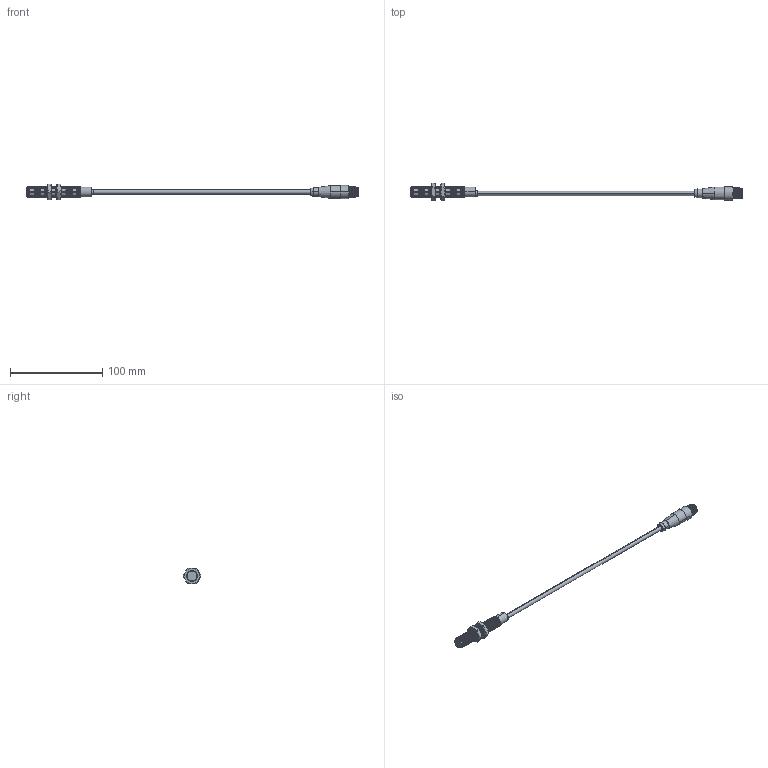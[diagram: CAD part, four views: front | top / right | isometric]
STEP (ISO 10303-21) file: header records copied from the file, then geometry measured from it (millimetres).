
FILE_DESCRIPTION (( 'STEP AP203' ), '1' );
FILE_NAME ('90-29417-053.STEP', '2015-11-07T16:37:11', ( 'Sam' ), ( 'Spade' ), 'SwSTEP 2.0', 'SolidWorks 2002296', '' );
FILE_SCHEMA (( 'CONFIG_CONTROL_DESIGN' ));
Length unit declared in the file: inch
Products named in the file (12): 90-29417-053; Imported; Imported3; Imported2; Imported1; Imported7; Imported6; Imported5; Imported4; Imported10; Imported9; Imported8
Assembly tree (11 placements, depth 2):
  90-29417-053
    Imported4
    Imported7
    Imported3
    Imported9
    Imported2
    Imported
    Imported1
    Imported8
    Imported10
    Imported6
    Imported5
Bounding box: 359.71 x 19.47 x 16.87 mm (x, y, z)
Volume: 18501.7 mm3; surface area: 13511.2 mm2
Topology: 11 solids, 11 shells, 556 faces, 1243 edges, 715 vertices
Faces by surface type: cone 332, cylinder 159, plane 49, bspline 16
Entity records: 17044 total; most frequent: CARTESIAN_POINT 3109, DIRECTION 2985, ORIENTED_EDGE 2474, AXIS2_PLACEMENT_3D 1244, EDGE_CURVE 1237, VERTEX_POINT 715, CIRCLE 690, EDGE_LOOP 574
